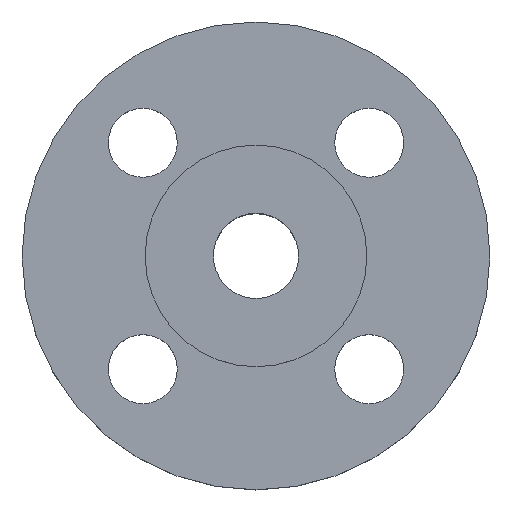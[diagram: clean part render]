
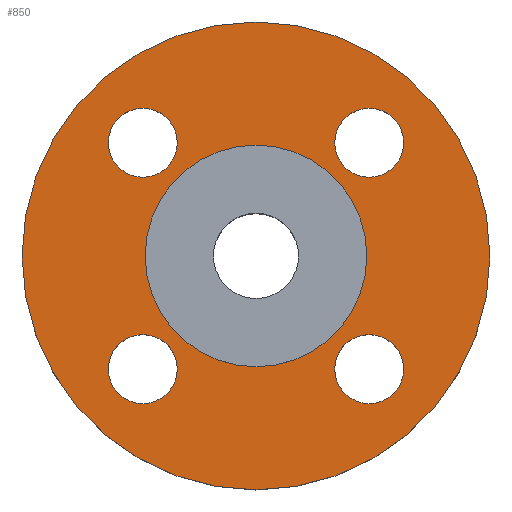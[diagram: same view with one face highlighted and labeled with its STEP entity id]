
A CAD part, top view. The second image highlights one B-rep face of the part: STEP entity #850.
In plain terms, the highlighted planar face has unit normal (0, 0, 1).
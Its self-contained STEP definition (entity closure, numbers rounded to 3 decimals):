
#6 = CIRCLE ( 'NONE', #502, 15.5 ) ;
#9 = CARTESIAN_POINT ( 'NONE',  ( 0., 0., 0. ) ) ;
#18 = EDGE_CURVE ( 'NONE', #796, #665, #509, .T. ) ;
#33 = CIRCLE ( 'NONE', #100, 7. ) ;
#45 = CIRCLE ( 'NONE', #46, 15.5 ) ;
#46 = AXIS2_PLACEMENT_3D ( 'NONE', #272, #271, #269 ) ;
#50 = DIRECTION ( 'NONE',  ( -1., 0., 0. ) ) ;
#54 = DIRECTION ( 'NONE',  ( 1., 0., 0. ) ) ;
#55 = DIRECTION ( 'NONE',  ( 0., 0., 1. ) ) ;
#56 = CARTESIAN_POINT ( 'NONE',  ( 0., 0., 0. ) ) ;
#58 = PLANE ( 'NONE',  #523 ) ;
#59 = FACE_OUTER_BOUND ( 'NONE', #587, .T. ) ;
#60 = FACE_BOUND ( 'NONE', #726, .T. ) ;
#61 = FACE_BOUND ( 'NONE', #662, .T. ) ;
#62 = FACE_BOUND ( 'NONE', #474, .T. ) ;
#63 = FACE_BOUND ( 'NONE', #597, .T. ) ;
#65 = FACE_BOUND ( 'NONE', #583, .T. ) ;
#81 = CARTESIAN_POINT ( 'NONE',  ( 15.5, 0., 0. ) ) ;
#83 = CARTESIAN_POINT ( 'NONE',  ( -29.981, -22.981, 0. ) ) ;
#88 = CARTESIAN_POINT ( 'NONE',  ( -29.981, 22.981, 0. ) ) ;
#90 = CARTESIAN_POINT ( 'NONE',  ( 15.981, -22.981, 0. ) ) ;
#92 = CIRCLE ( 'NONE', #488, 7. ) ;
#100 = AXIS2_PLACEMENT_3D ( 'NONE', #213, #208, #207 ) ;
#101 = CIRCLE ( 'NONE', #106, 7. ) ;
#106 = AXIS2_PLACEMENT_3D ( 'NONE', #205, #203, #201 ) ;
#111 = EDGE_CURVE ( 'NONE', #588, #674, #166, .T. ) ;
#133 = EDGE_CURVE ( 'NONE', #665, #796, #747, .T. ) ;
#150 = EDGE_CURVE ( 'NONE', #800, #157, #347, .T. ) ;
#151 = DIRECTION ( 'NONE',  ( 1., 0., 0. ) ) ;
#157 = VERTEX_POINT ( 'NONE', #411 ) ;
#166 = CIRCLE ( 'NONE', #691, 47.5 ) ;
#167 = EDGE_CURVE ( 'NONE', #803, #671, #280, .T. ) ;
#173 = CARTESIAN_POINT ( 'NONE',  ( -47.5, 0., 0. ) ) ;
#179 = CARTESIAN_POINT ( 'NONE',  ( -15.981, -22.981, 0. ) ) ;
#185 = CARTESIAN_POINT ( 'NONE',  ( 29.981, -22.981, 0. ) ) ;
#188 = CARTESIAN_POINT ( 'NONE',  ( 15.981, 22.981, 0. ) ) ;
#190 = CARTESIAN_POINT ( 'NONE',  ( 29.981, 22.981, 0. ) ) ;
#201 = DIRECTION ( 'NONE',  ( -1., 0., 0. ) ) ;
#203 = DIRECTION ( 'NONE',  ( 0., 0., -1. ) ) ;
#205 = CARTESIAN_POINT ( 'NONE',  ( 22.981, 22.981, 0. ) ) ;
#207 = DIRECTION ( 'NONE',  ( -1., 0., 0. ) ) ;
#208 = DIRECTION ( 'NONE',  ( 0., 0., -1. ) ) ;
#213 = CARTESIAN_POINT ( 'NONE',  ( -22.981, -22.981, 0. ) ) ;
#228 = DIRECTION ( 'NONE',  ( 0., 0., -1. ) ) ;
#229 = CARTESIAN_POINT ( 'NONE',  ( -22.981, 22.981, 0. ) ) ;
#246 = CARTESIAN_POINT ( 'NONE',  ( 47.5, 0., 0. ) ) ;
#248 = CARTESIAN_POINT ( 'NONE',  ( -15.5, 0., 0. ) ) ;
#269 = DIRECTION ( 'NONE',  ( 1., 0., 0. ) ) ;
#271 = DIRECTION ( 'NONE',  ( 0., 0., 1. ) ) ;
#272 = CARTESIAN_POINT ( 'NONE',  ( 0., 0., 0. ) ) ;
#280 = CIRCLE ( 'NONE', #843, 7. ) ;
#281 = DIRECTION ( 'NONE',  ( 1., 0., 0. ) ) ;
#282 = CARTESIAN_POINT ( 'NONE',  ( 0., 0., 0. ) ) ;
#283 = DIRECTION ( 'NONE',  ( 0., 0., 1. ) ) ;
#304 = AXIS2_PLACEMENT_3D ( 'NONE', #824, #825, #826 ) ;
#314 = DIRECTION ( 'NONE',  ( 0., 0., -1. ) ) ;
#317 = DIRECTION ( 'NONE',  ( 0., 0., 1. ) ) ;
#318 = CARTESIAN_POINT ( 'NONE',  ( 22.981, 22.981, 0. ) ) ;
#330 = DIRECTION ( 'NONE',  ( -1., 0., 0. ) ) ;
#347 = CIRCLE ( 'NONE', #511, 7. ) ;
#350 = AXIS2_PLACEMENT_3D ( 'NONE', #374, #375, #376 ) ;
#374 = CARTESIAN_POINT ( 'NONE',  ( 22.981, -22.981, 0. ) ) ;
#375 = DIRECTION ( 'NONE',  ( 0., 0., -1. ) ) ;
#376 = DIRECTION ( 'NONE',  ( -1., 0., 0. ) ) ;
#380 = CARTESIAN_POINT ( 'NONE',  ( -22.981, 22.981, 0. ) ) ;
#381 = DIRECTION ( 'NONE',  ( 0., 0., -1. ) ) ;
#384 = DIRECTION ( 'NONE',  ( -1., 0., 0. ) ) ;
#391 = EDGE_CURVE ( 'NONE', #674, #588, #503, .T. ) ;
#394 = AXIS2_PLACEMENT_3D ( 'NONE', #229, #228, #50 ) ;
#411 = CARTESIAN_POINT ( 'NONE',  ( -15.981, 22.981, 0. ) ) ;
#416 = CARTESIAN_POINT ( 'NONE',  ( -22.981, -22.981, 0. ) ) ;
#417 = DIRECTION ( 'NONE',  ( 0., 0., -1. ) ) ;
#418 = DIRECTION ( 'NONE',  ( -1., 0., 0. ) ) ;
#474 = EDGE_LOOP ( 'NONE', ( #673, #675 ) ) ;
#488 = AXIS2_PLACEMENT_3D ( 'NONE', #318, #314, #330 ) ;
#499 = EDGE_CURVE ( 'NONE', #651, #656, #92, .T. ) ;
#502 = AXIS2_PLACEMENT_3D ( 'NONE', #561, #562, #563 ) ;
#503 = CIRCLE ( 'NONE', #589, 47.5 ) ;
#509 = CIRCLE ( 'NONE', #304, 7. ) ;
#511 = AXIS2_PLACEMENT_3D ( 'NONE', #380, #381, #384 ) ;
#523 = AXIS2_PLACEMENT_3D ( 'NONE', #56, #55, #54 ) ;
#524 = EDGE_CURVE ( 'NONE', #584, #810, #6, .T. ) ;
#561 = CARTESIAN_POINT ( 'NONE',  ( 0., 0., 0. ) ) ;
#562 = DIRECTION ( 'NONE',  ( 0., 0., 1. ) ) ;
#563 = DIRECTION ( 'NONE',  ( 1., 0., 0. ) ) ;
#567 = EDGE_CURVE ( 'NONE', #810, #584, #45, .T. ) ;
#568 = CIRCLE ( 'NONE', #394, 7. ) ;
#577 = ORIENTED_EDGE ( 'NONE', *, *, #524, .F. ) ;
#583 = EDGE_LOOP ( 'NONE', ( #669, #670 ) ) ;
#584 = VERTEX_POINT ( 'NONE', #248 ) ;
#587 = EDGE_LOOP ( 'NONE', ( #727, #680 ) ) ;
#588 = VERTEX_POINT ( 'NONE', #246 ) ;
#589 = AXIS2_PLACEMENT_3D ( 'NONE', #282, #283, #281 ) ;
#597 = EDGE_LOOP ( 'NONE', ( #798, #653 ) ) ;
#608 = EDGE_CURVE ( 'NONE', #157, #800, #568, .T. ) ;
#619 = EDGE_CURVE ( 'NONE', #671, #803, #33, .T. ) ;
#623 = EDGE_CURVE ( 'NONE', #656, #651, #101, .T. ) ;
#651 = VERTEX_POINT ( 'NONE', #190 ) ;
#653 = ORIENTED_EDGE ( 'NONE', *, *, #167, .T. ) ;
#656 = VERTEX_POINT ( 'NONE', #188 ) ;
#662 = EDGE_LOOP ( 'NONE', ( #676, #678 ) ) ;
#665 = VERTEX_POINT ( 'NONE', #185 ) ;
#669 = ORIENTED_EDGE ( 'NONE', *, *, #133, .T. ) ;
#670 = ORIENTED_EDGE ( 'NONE', *, *, #18, .T. ) ;
#671 = VERTEX_POINT ( 'NONE', #179 ) ;
#673 = ORIENTED_EDGE ( 'NONE', *, *, #608, .T. ) ;
#674 = VERTEX_POINT ( 'NONE', #173 ) ;
#675 = ORIENTED_EDGE ( 'NONE', *, *, #150, .T. ) ;
#676 = ORIENTED_EDGE ( 'NONE', *, *, #499, .T. ) ;
#678 = ORIENTED_EDGE ( 'NONE', *, *, #623, .T. ) ;
#680 = ORIENTED_EDGE ( 'NONE', *, *, #391, .T. ) ;
#691 = AXIS2_PLACEMENT_3D ( 'NONE', #9, #317, #151 ) ;
#726 = EDGE_LOOP ( 'NONE', ( #762, #577 ) ) ;
#727 = ORIENTED_EDGE ( 'NONE', *, *, #111, .T. ) ;
#747 = CIRCLE ( 'NONE', #350, 7. ) ;
#762 = ORIENTED_EDGE ( 'NONE', *, *, #567, .F. ) ;
#796 = VERTEX_POINT ( 'NONE', #90 ) ;
#798 = ORIENTED_EDGE ( 'NONE', *, *, #619, .T. ) ;
#800 = VERTEX_POINT ( 'NONE', #88 ) ;
#803 = VERTEX_POINT ( 'NONE', #83 ) ;
#810 = VERTEX_POINT ( 'NONE', #81 ) ;
#824 = CARTESIAN_POINT ( 'NONE',  ( 22.981, -22.981, 0. ) ) ;
#825 = DIRECTION ( 'NONE',  ( 0., 0., -1. ) ) ;
#826 = DIRECTION ( 'NONE',  ( -1., 0., 0. ) ) ;
#843 = AXIS2_PLACEMENT_3D ( 'NONE', #416, #417, #418 ) ;
#850 = ADVANCED_FACE ( 'NONE', ( #65, #63, #62, #61, #60, #59 ), #58, .T. ) ;
